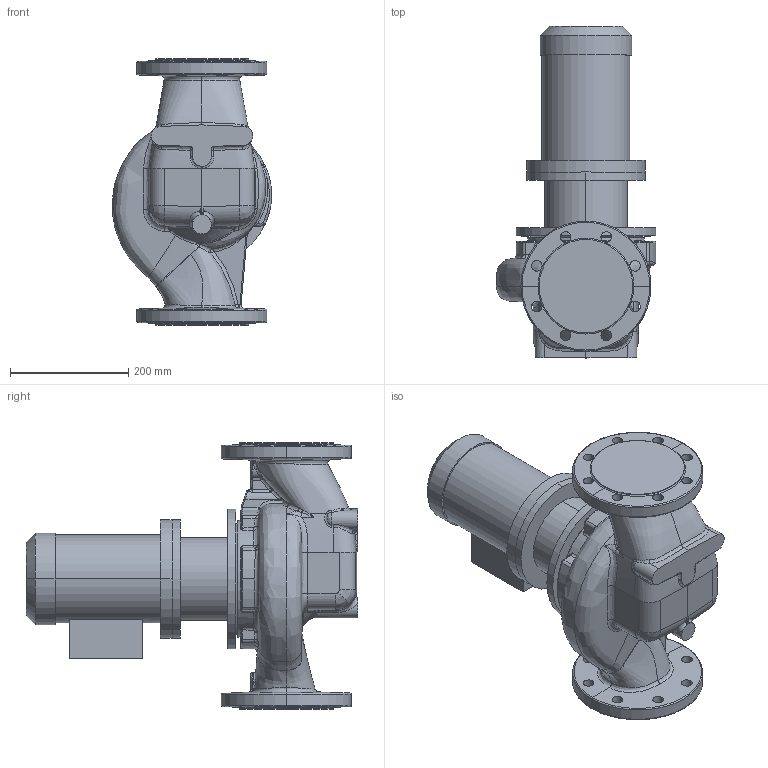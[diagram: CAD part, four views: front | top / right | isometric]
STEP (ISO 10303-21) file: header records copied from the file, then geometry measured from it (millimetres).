
FILE_DESCRIPTION (( 'STEP AP214' ), '1' );
FILE_NAME ('KRL 100-125-4-0,75.STEP', '2026-04-06T06:48:06', ( '' ), ( '' ), 'SwSTEP 2.0', 'SolidWorks 2016', '' );
FILE_SCHEMA (( 'AUTOMOTIVE_DESIGN' ));
Length unit declared in the file: millimetre
Products named in the file (1): KRL 100-125-4-0,75
Bounding box: 269.55 x 561.3 x 450 mm (x, y, z)
Volume: 19578864.6 mm3; surface area: 932790.7 mm2
Topology: 4 solids, 4 shells, 556 faces, 1380 edges, 833 vertices
Faces by surface type: bspline 269, cylinder 129, plane 86, torus 30, cone 29, sphere 13
Entity records: 54706 total; most frequent: CARTESIAN_POINT 37682, ORIENTED_EDGE 2730, DIRECTION 1608, EDGE_CURVE 1365, VERTEX_POINT 833, AXIS2_PLACEMENT_3D 681, B_SPLINE_CURVE_WITH_KNOTS 662, EDGE_LOOP 604
